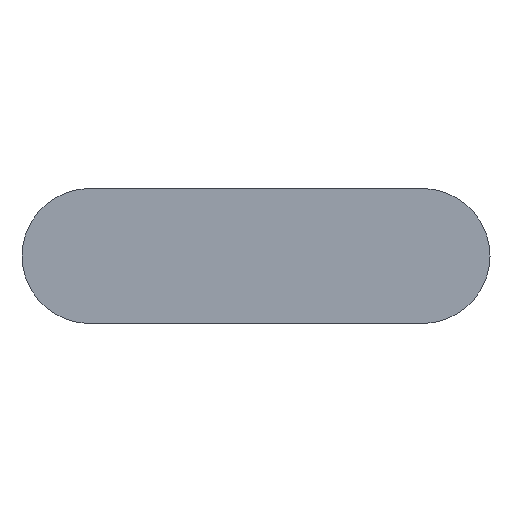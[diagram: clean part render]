
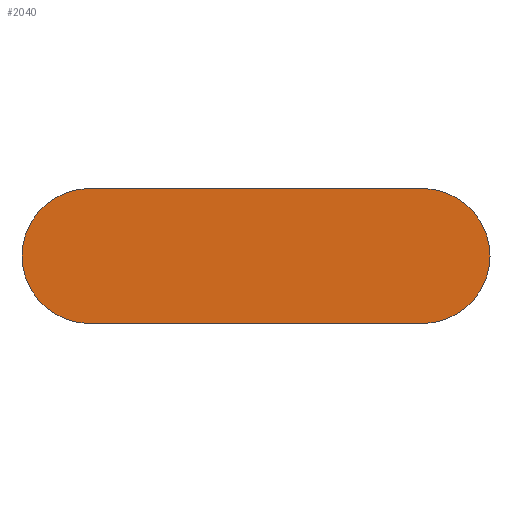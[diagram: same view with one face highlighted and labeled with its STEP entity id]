
A CAD part, front view. The second image highlights one B-rep face of the part: STEP entity #2040.
In plain terms, the highlighted planar face has unit normal (0, -1, 0).
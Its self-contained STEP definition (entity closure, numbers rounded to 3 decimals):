
#568=CARTESIAN_POINT('',(-92.5,0.,0.));
#569=DIRECTION('',(0.,1.,0.));
#570=DIRECTION('',(0.,0.,-1.));
#571=AXIS2_PLACEMENT_3D('',#568,#569,#570);
#573=DIRECTION('',(1.,0.,0.));
#574=VECTOR('',#573,185.);
#575=CARTESIAN_POINT('',(-92.5,0.,37.5));
#576=LINE('',#575,#574);
#577=CARTESIAN_POINT('',(92.5,0.,0.));
#578=DIRECTION('',(0.,1.,0.));
#579=DIRECTION('',(0.,0.,1.));
#580=AXIS2_PLACEMENT_3D('',#577,#578,#579);
#582=DIRECTION('',(-1.,0.,0.));
#583=VECTOR('',#582,185.);
#584=CARTESIAN_POINT('',(92.5,0.,-37.5));
#585=LINE('',#584,#583);
#680=CARTESIAN_POINT('',(-92.5,0.,-37.5));
#681=CARTESIAN_POINT('',(-92.5,0.,37.5));
#682=VERTEX_POINT('',#680);
#683=VERTEX_POINT('',#681);
#684=CARTESIAN_POINT('',(92.5,0.,37.5));
#685=VERTEX_POINT('',#684);
#686=CARTESIAN_POINT('',(92.5,0.,-37.5));
#687=VERTEX_POINT('',#686);
#2026=CARTESIAN_POINT('',(65.,0.,0.));
#2027=DIRECTION('',(0.,1.,0.));
#2028=DIRECTION('',(1.,0.,0.));
#2029=AXIS2_PLACEMENT_3D('',#2026,#2027,#2028);
#2030=PLANE('',#2029);
#2031=ORIENTED_EDGE('',*,*,#2009,.T.);
#2033=ORIENTED_EDGE('',*,*,#2032,.T.);
#2035=ORIENTED_EDGE('',*,*,#2034,.T.);
#2037=ORIENTED_EDGE('',*,*,#2036,.T.);
#2038=EDGE_LOOP('',(#2031,#2033,#2035,#2037));
#2039=FACE_OUTER_BOUND('',#2038,.F.);
#572=CIRCLE('',#571,37.5);
#581=CIRCLE('',#580,37.5);
#2009=EDGE_CURVE('',#682,#683,#572,.T.);
#2032=EDGE_CURVE('',#683,#685,#576,.T.);
#2034=EDGE_CURVE('',#685,#687,#581,.T.);
#2036=EDGE_CURVE('',#687,#682,#585,.T.);
#2040=ADVANCED_FACE('',(#2039),#2030,.F.);
